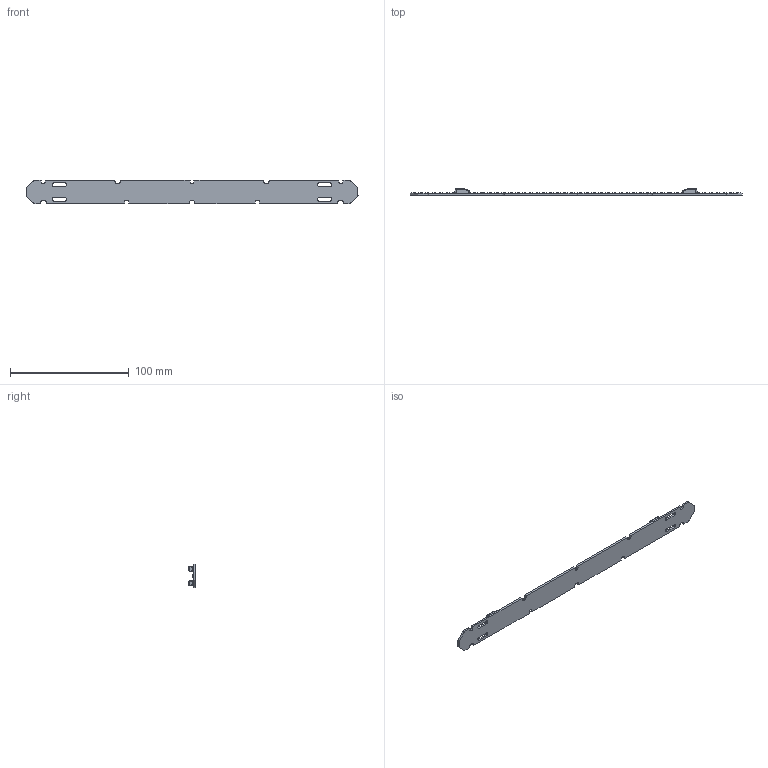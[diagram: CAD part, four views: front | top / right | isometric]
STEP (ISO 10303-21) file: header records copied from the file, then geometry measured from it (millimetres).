
FILE_DESCRIPTION (( 'STEP AP214' ), '1' );
FILE_NAME ('4163042swm000.step', '2020-02-14T15:25:32', ( 'OSRAM' ), ( 'OSRAM' ), 'SwSTEP 2.0', 'SolidWorks 2017', '' );
FILE_SCHEMA (( 'AUTOMOTIVE_DESIGN' ));
Length unit declared in the file: millimetre
Products named in the file (4): 3792700swm000; 3681749swm000; 4163044swm000; 4163042swm000
Assembly tree (6 placements, depth 2):
  4163042swm000
    4163044swm000
    3681749swm000
    3792700swm000  x4
Bounding box: 279.5 x 5.55 x 20 mm (x, y, z)
Volume: 9339.5 mm3; surface area: 13918.9 mm2
Topology: 53 solids, 53 shells, 1334 faces, 3400 edges, 2232 vertices
Faces by surface type: plane 1048, cylinder 166, bspline 112, cone 8
Entity records: 40253 total; most frequent: CARTESIAN_POINT 6236, ORIENTED_EDGE 5064, DIRECTION 4493, EDGE_CURVE 2532, LINE 2325, VECTOR 2325, VERTEX_POINT 1680, AXIS2_PLACEMENT_3D 1084
